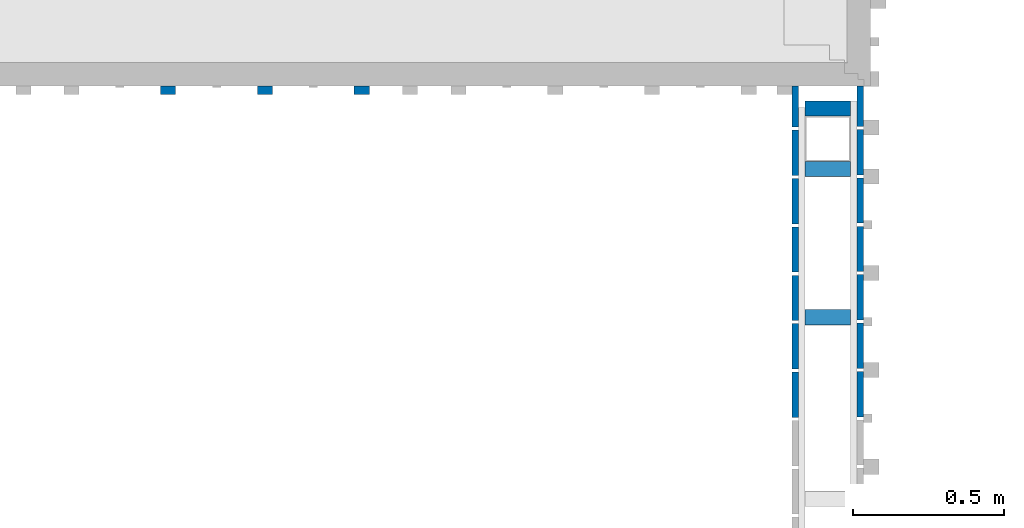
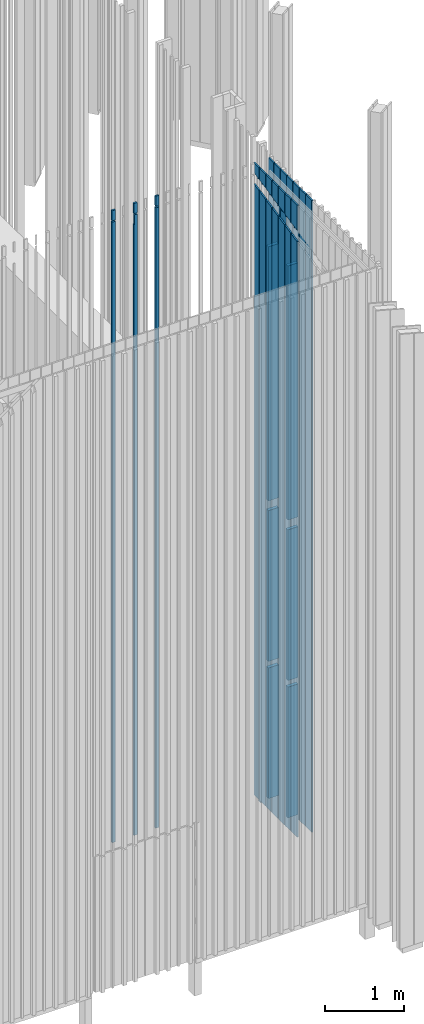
# One storey, part 171 of 390: 24 walls.
"""IFC2X3 building model written with IfcOpenShell, lengths in millimetres."""

from ifc_helpers import new_model, entity, si_unit, converted_unit, derived_unit, money_unit, direction, frame, origin_with_axes, place, context, subcontext, project, spatial, faceted_brep, material, material_list, type_object, element, save


model = new_model("IFC2X3")

# Units and contexts
model_context = context("Model", 3, precision=1e-05, world=origin_with_axes(), true_north=direction((0.0, 1.0)))
body_context = subcontext(model_context, "Body", "Model", "MODEL_VIEW")
ifc_project = project(units=[si_unit("LENGTHUNIT", "METRE", prefix="MILLI"), si_unit("AREAUNIT", "SQUARE_METRE"), si_unit("VOLUMEUNIT", "CUBIC_METRE"), converted_unit("PLANEANGLEUNIT", "DEGREE", entity("IfcPlaneAngleMeasure", 0.0174532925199), si_unit("PLANEANGLEUNIT", "RADIAN"), dimensions=[0, 0, 0, 0, 0, 0, 0]), si_unit("SOLIDANGLEUNIT", "STERADIAN"), money_unit("EUR"), converted_unit("TIMEUNIT", "Year", entity("IfcTimeMeasure", 31556926.0), si_unit("TIMEUNIT", "SECOND"), dimensions=[0, 0, 1, 0, 0, 0, 0]), si_unit("MASSUNIT", "GRAM", prefix="KILO"), si_unit("THERMODYNAMICTEMPERATUREUNIT", "DEGREE_CELSIUS"), si_unit("LUMINOUSINTENSITYUNIT", "LUMEN"), si_unit("ENERGYUNIT", "JOULE", prefix="MEGA"), derived_unit("THERMALCONDUCTANCEUNIT", [(si_unit("POWERUNIT", "WATT"), 1), (si_unit("LENGTHUNIT", "METRE"), -1), (si_unit("THERMODYNAMICTEMPERATUREUNIT", "KELVIN"), -1)]), derived_unit("SPECIFICHEATCAPACITYUNIT", [(si_unit("ENERGYUNIT", "JOULE"), 1), (si_unit("MASSUNIT", "GRAM", prefix="KILO"), -1), (si_unit("THERMODYNAMICTEMPERATUREUNIT", "KELVIN"), -1)]), derived_unit("MASSDENSITYUNIT", [(si_unit("MASSUNIT", "GRAM", prefix="KILO"), 1), (si_unit("VOLUMEUNIT", "CUBIC_METRE"), -1)])], contexts=[model_context])

# Site, building, storey
site_placement = place(None, origin_with_axes())
site = spatial("IfcSite", under=ifc_project, at=site_placement, Name="Site", CompositionType="ELEMENT")
building_placement = place(site_placement, origin_with_axes())
building = spatial("IfcBuilding", under=site, at=building_placement, Name="Building", CompositionType="ELEMENT")
storey_placement = place(building_placement, origin_with_axes())
storey = spatial("IfcBuildingStorey", under=building, at=storey_placement, Name="1 korrus", CompositionType="ELEMENT", Elevation=0.0)

# Walls
ifc_material = material(Name="Site specified")
ifc_material_list = material_list([ifc_material, ifc_material])
wall_type = type_object("IfcWallType", Name="Puitfassaadi ribistik", PredefinedType="NOTDEFINED")
wall_1_placement = place(storey_placement, frame((137784.000037, 45260.9999018, 100.000000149), z_axis=(0.0, 0.0, 1.0), x_axis=(-1.0, 0.0, 0.0)))
element("IfcWall", 1, at=wall_1_placement, inside=storey, type_object=wall_type, material=ifc_material_list, Name="Site specified", context=body_context, shape_type="Brep", body=[
    faceted_brep([(25.0, -2.00001028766, -3.12924797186e-06), (25.0, -2.00010660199, 9438.5673516), (13.9999998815, -2.00010660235, 9438.5673516), (13.9999998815, -1.99986309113, 9591.9184052), (-25.0, -2.00010660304, 9591.91725957), (-25.0, -2.00001028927, -3.12924797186e-06), (25.0, 25.0, 0.0), (25.0, 25.0, 9432.82828782), (13.9999998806, 25.0, 9432.82828782), (13.9999998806, 25.0002406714, 9586.17934202), (-25.0, 25.0, 9586.17820975), (-25.0, 25.0, 0.0)], [[[0, 1, 2, 3, 4, 5]], [[6, 7, 1, 0]], [[8, 2, 1, 7]], [[8, 9, 3, 2]], [[4, 3, 9, 10]], [[11, 5, 4, 10]], [[6, 0, 5, 11]], [[9, 8, 7, 6, 11, 10]]]),
    faceted_brep([(-25.0, 25.0, 9764.99999985), (-25.0, 25.0, 9607.64736224), (-25.0, -2.0001066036, 9613.38641206), (-25.0, -2.0001066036, 9764.99999985), (25.0, 25.0, 9764.99999985), (25.0, 25.0, 9607.64736224), (25.0, -2.00010660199, 9613.38641206), (25.0, -2.00010660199, 9764.99999985)], [[[0, 1, 2, 3]], [[4, 5, 1, 0]], [[5, 6, 2, 1]], [[3, 2, 6, 7]], [[3, 7, 4, 0]], [[7, 6, 5, 4]]]),
])
wall_2_placement = place(storey_placement, frame((137464.000037, 45260.9999517, 100.000000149), z_axis=(0.0, 0.0, 1.0), x_axis=(-1.0, 0.0, 0.0)))
element("IfcWall", 2, at=wall_2_placement, inside=storey, type_object=wall_type, material=ifc_material_list, Name="Site specified", context=body_context, shape_type="Brep", body=[
    faceted_brep([(25.0, -1.99996037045, -3.12924797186e-06), (25.0, -2.00005668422, 9591.91725957), (-25.0, -2.00005668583, 9591.91725957), (-25.0, -1.99996037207, -3.12924797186e-06), (25.0, 25.0, 0.0), (25.0, 25.0, 9586.17822036), (-25.0, 25.0, 9586.17822036), (-25.0, 25.0, 0.0)], [[[0, 1, 2, 3]], [[4, 5, 1, 0]], [[5, 6, 2, 1]], [[3, 2, 6, 7]], [[0, 3, 7, 4]], [[7, 6, 5, 4]]]),
    faceted_brep([(-25.0, 25.0, 9764.99999985), (-25.0, 25.0, 9607.64737285), (-25.0, -2.0000566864, 9613.38641206), (-25.0, -2.0000566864, 9764.99999985), (25.0, 25.0, 9764.99999985), (25.0, 25.0, 9607.64737285), (25.0, -2.00005668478, 9613.38641206), (25.0, -2.00005668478, 9764.99999985)], [[[0, 1, 2, 3]], [[4, 5, 1, 0]], [[5, 6, 2, 1]], [[3, 2, 6, 7]], [[3, 7, 4, 0]], [[7, 6, 5, 4]]]),
])
wall_3_placement = place(storey_placement, frame((138104.000037, 45260.9999093, 100.000000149), z_axis=(0.0, 0.0, 1.0), x_axis=(-1.0, 0.0, 0.0)))
element("IfcWall", 3, at=wall_3_placement, inside=storey, type_object=wall_type, material=ifc_material_list, Name="Site specified", context=body_context, shape_type="Brep", body=[
    faceted_brep([(25.0, -2.00000278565, -3.12924797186e-06), (25.0, -2.00009909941, 9591.91725957), (-25.0, -2.00009910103, 9591.91725957), (-25.0, -2.00000278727, -3.12924797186e-06), (25.0, 25.0, 0.0), (25.0, 25.0, 9586.17821134), (-25.0, 25.0, 9586.17821134), (-25.0, 25.0, 0.0)], [[[0, 1, 2, 3]], [[4, 5, 1, 0]], [[5, 6, 2, 1]], [[3, 2, 6, 7]], [[0, 3, 7, 4]], [[7, 6, 5, 4]]]),
    faceted_brep([(-25.0, 25.0, 9764.99999985), (-25.0, 25.0, 9607.64736383), (-25.0, -2.0000991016, 9613.38641206), (-25.0, -2.0000991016, 9764.99999985), (25.0, 25.0, 9764.99999985), (25.0, 25.0, 9607.64736383), (25.0, -2.00009909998, 9613.38641206), (25.0, -2.00009909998, 9764.99999985)], [[[0, 1, 2, 3]], [[4, 5, 1, 0]], [[5, 6, 2, 1]], [[3, 2, 6, 7]], [[3, 7, 4, 0]], [[7, 6, 5, 4]]]),
])
wall_4_placement = place(storey_placement, frame((139752.000037, 44725.0000099, 100.000000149), z_axis=(0.0, 0.0, 1.0), x_axis=(0.0, 1.0, 0.0)))
element("IfcWall", 4, at=wall_4_placement, inside=storey, type_object=wall_type, material=ifc_material, Name="Site specified", context=body_context, shape_type="Brep", body=[
    faceted_brep([(75.0, -11.0000000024, 9764.99999985), (-75.0, -11.0000000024, 9764.99999985), (-75.0, -11.0000000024, 0.0), (75.0, -11.0000000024, 0.0), (75.0, 11.0000000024, 9764.99999985), (-75.0, 11.0000000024, 9764.99999985), (-75.0, 11.0000000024, 0.0), (75.0, 11.0000000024, 0.0)], [[[0, 1, 2, 3]], [[4, 5, 1, 0]], [[1, 5, 6, 2]], [[7, 3, 2, 6]], [[4, 0, 3, 7]], [[5, 4, 7, 6]]]),
])
wall_5_placement = place(storey_placement, frame((139752.000037, 45205.0000099, 100.000000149), z_axis=(0.0, 0.0, 1.0), x_axis=(0.0, 1.0, 0.0)))
element("IfcWall", 5, at=wall_5_placement, inside=storey, type_object=wall_type, material=ifc_material, Name="Site specified", context=body_context, shape_type="Brep", body=[
    faceted_brep([(-75.0, -11.0000000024, 9764.99999985), (-75.0, -11.0000000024, 0.0), (57.9999022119, -11.0000000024, -3.12924797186e-06), (57.9999985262, -11.0000000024, 9764.99999985), (-75.0, 11.0000000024, 9764.99999985), (-75.0, 11.0000000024, 0.0), (57.9999022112, 11.0000000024, -3.12924797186e-06), (57.9999985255, 11.0000000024, 9764.99999985)], [[[0, 1, 2, 3]], [[1, 0, 4, 5]], [[1, 5, 6, 2]], [[6, 7, 3, 2]], [[4, 0, 3, 7]], [[4, 7, 6, 5]]]),
])
for number, where, z_axis, x_axis, name in (
    (6, (139752.000037, 45045.0000099, 100.000000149), (0.0, 0.0, 1.0), (0.0, 1.0, 0.0), "Site specified"),
    (7, (139752.000037, 44405.0000099, 100.000000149), (0.0, 0.0, 1.0), (0.0, 1.0, 0.0), "Site specified"),
    (8, (139752.000037, 44885.0000099, 100.000000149), (0.0, 0.0, 1.0), (0.0, 1.0, 0.0), "Site specified"),
    (9, (139752.000037, 44565.0000099, 100.000000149), (0.0, 0.0, 1.0), (0.0, 1.0, 0.0), "Site specified"),
    (10, (139752.000037, 44245.0000099, 100.000000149), (0.0, 0.0, 1.0), (0.0, 1.0, 0.0), "Site specified"),
):
    element("IfcWall", number, at=place(storey_placement, frame(where, z_axis=z_axis, x_axis=x_axis)), inside=storey, type_object=wall_type, material=ifc_material, Name=name, context=body_context, shape_type="Brep", body=[
        faceted_brep([(75.0, -11.0000000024, 9764.99999985), (-75.0, -11.0000000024, 9764.99999985), (-75.0, -11.0000000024, 0.0), (75.0, -11.0000000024, 0.0), (75.0, 11.0000000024, 9764.99999985), (-75.0, 11.0000000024, 9764.99999985), (-75.0, 11.0000000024, 0.0), (75.0, 11.0000000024, 0.0)], [[[0, 1, 2, 3]], [[4, 5, 1, 0]], [[1, 5, 6, 2]], [[7, 3, 2, 6]], [[4, 0, 3, 7]], [[5, 4, 7, 6]]]),
    ])
wall_6_placement = place(storey_placement, frame((139538.000037, 45203.0000099, 100.000000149), z_axis=(0.0, 0.0, 1.0), x_axis=(0.0, 1.0, 0.0)))
element("IfcWall", 11, at=wall_6_placement, inside=storey, type_object=wall_type, material=ifc_material_list, Name="Site specified", context=body_context, shape_type="Brep", body=[
    faceted_brep([(-39.7053524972, -11.0000000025, 9592.19338547), (-39.7055855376, -11.0000000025, 9570.72532934), (-29.9241105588, -11.0000000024, 9572.80445109), (-29.9238764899, -11.0000000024, 9594.27250238), (59.9999985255, -11.0000000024, 9613.38641206), (59.9999985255, -11.0000000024, 9764.99999985), (-75.0, -11.0000000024, 9764.99999985), (-75.0, -11.0000000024, 9584.69127655), (-39.7053524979, 11.0000000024, 9592.19338547), (-39.7055855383, 11.0000000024, 9570.72532934), (-29.9241105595, 11.0000000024, 9572.80445109), (-29.9238764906, 11.0000000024, 9594.27250238), (59.9999985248, 11.0000000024, 9613.38641206), (59.9999985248, 11.0000000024, 9764.99999985), (-75.0, 11.0000000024, 9764.99999985), (-75.0, 11.0000000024, 9584.69127655)], [[[0, 1, 2, 3, 4, 5, 6, 7]], [[8, 9, 1, 0]], [[9, 10, 2, 1]], [[3, 2, 10, 11]], [[4, 3, 11, 12]], [[12, 13, 5, 4]], [[14, 6, 5, 13]], [[6, 14, 15, 7]], [[15, 8, 0, 7]], [[11, 10, 9, 8, 15, 14, 13, 12]]]),
    faceted_brep([(59.9999022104, 11.0000000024, -3.12924797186e-06), (59.9999985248, 11.0000000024, 9438.56735167), (59.9999985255, -11.0000000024, 9438.56735167), (59.9999022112, -11.0000000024, -3.12924797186e-06), (-75.0, 11.0000000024, 0.0), (-75.0, 11.0000000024, 9409.87214635), (-75.0, -11.0000000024, 9409.87214635), (-75.0, -11.0000000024, 0.0)], [[[0, 1, 2, 3]], [[4, 5, 1, 0]], [[5, 6, 2, 1]], [[3, 2, 6, 7]], [[7, 4, 0, 3]], [[7, 6, 5, 4]]]),
])
wall_7_placement = place(storey_placement, frame((139538.000037, 45043.0000099, 100.000000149), z_axis=(0.0, 0.0, 1.0), x_axis=(0.0, 1.0, 0.0)))
element("IfcWall", 12, at=wall_7_placement, inside=storey, type_object=wall_type, material=ifc_material_list, Name="Site specified", context=body_context, shape_type="Brep", body=[
    faceted_brep([(17.5891494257, -11.0000000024, 9570.36265793), (17.5889271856, -11.0000000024, 9548.894551), (27.3704021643, -11.0000000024, 9550.97367275), (27.3706254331, -11.0000000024, 9572.44177484), (75.0, -11.0000000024, 9582.56571094), (75.0, -11.0000000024, 9764.99999985), (-75.0, -11.0000000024, 9764.99999985), (-75.0, -11.0000000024, 9550.68222669), (17.589149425, 11.0000000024, 9570.36265793), (17.5889271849, 11.0000000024, 9548.894551), (27.3704021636, 11.0000000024, 9550.97367275), (27.3706254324, 11.0000000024, 9572.44177484), (75.0, 11.0000000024, 9582.56571094), (75.0, 11.0000000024, 9764.99999985), (-75.0, 11.0000000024, 9764.99999985), (-75.0, 11.0000000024, 9550.68222669)], [[[0, 1, 2, 3, 4, 5, 6, 7]], [[8, 9, 1, 0]], [[9, 10, 2, 1]], [[3, 2, 10, 11]], [[11, 12, 4, 3]], [[5, 4, 12, 13]], [[13, 14, 6, 5]], [[14, 15, 7, 6]], [[8, 0, 7, 15]], [[11, 10, 9, 8, 15, 14, 13, 12]]]),
    faceted_brep([(75.0, 11.0000000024, 0.0), (75.0, 11.0000000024, 9407.74657557), (75.0, -11.0000000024, 9407.74657557), (75.0, -11.0000000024, 0.0), (-75.0, 11.0000000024, 0.0), (-75.0, 11.0000000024, 9375.86301376), (-75.0, -11.0000000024, 9375.86301376), (-75.0, -11.0000000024, 0.0)], [[[0, 1, 2, 3]], [[4, 5, 1, 0]], [[5, 6, 2, 1]], [[3, 2, 6, 7]], [[0, 3, 7, 4]], [[7, 6, 5, 4]]]),
])
wall_8_placement = place(storey_placement, frame((139538.000037, 44883.0000099, 100.000000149), z_axis=(0.0, 0.0, 1.0), x_axis=(0.0, 1.0, 0.0)))
element("IfcWall", 13, at=wall_8_placement, inside=storey, type_object=wall_type, material=ifc_material_list, Name="Site specified", context=body_context, shape_type="Brep", body=[
    faceted_brep([(74.8836513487, -11.0000000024, 9548.5319304), (74.8834399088, -11.0000000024, 9527.06377265), (75.0, -11.0000000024, 9527.08854832), (75.0, -11.0000000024, 9764.99999985), (-75.0, -11.0000000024, 9764.99999985), (-75.0, -11.0000000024, 9516.67317682), (-27.8218467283, -11.0000000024, 9526.70120286), (-27.8220473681, -11.0000000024, 9505.2329943), (-18.0405723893, -11.0000000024, 9507.31211605), (-18.040370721, -11.0000000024, 9528.78031977), (74.883651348, 11.0000000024, 9548.5319304), (74.883439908, 11.0000000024, 9527.06377265), (75.0, 11.0000000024, 9527.08854832), (75.0, 11.0000000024, 9764.99999985), (-75.0, 11.0000000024, 9764.99999985), (-75.0, 11.0000000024, 9516.67317682), (-27.821846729, 11.0000000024, 9526.70120286), (-27.8220473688, 11.0000000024, 9505.2329943), (-18.0405723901, 11.0000000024, 9507.31211605), (-18.0403707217, 11.0000000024, 9528.78031977)], [[[0, 1, 2, 3, 4, 5, 6, 7, 8, 9]], [[10, 11, 1, 0]], [[11, 12, 2, 1]], [[3, 2, 12, 13]], [[13, 14, 4, 3]], [[14, 15, 5, 4]], [[16, 6, 5, 15]], [[16, 17, 7, 6]], [[17, 18, 8, 7]], [[9, 8, 18, 19]], [[10, 0, 9, 19]], [[13, 12, 11, 10, 19, 18, 17, 16, 15, 14]]]),
    faceted_brep([(75.0, 11.0000000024, 0.0), (75.0, 11.0000000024, 9373.73744297), (75.0, -11.0000000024, 9373.73744297), (75.0, -11.0000000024, 0.0), (-75.0, 11.0000000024, 0.0), (-75.0, 11.0000000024, 9341.85388116), (-75.0, -11.0000000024, 9341.85388116), (-75.0, -11.0000000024, 0.0)], [[[0, 1, 2, 3]], [[4, 5, 1, 0]], [[5, 6, 2, 1]], [[3, 2, 6, 7]], [[0, 3, 7, 4]], [[7, 6, 5, 4]]]),
])
wall_9_placement = place(storey_placement, frame((139538.000037, 44723.0000099, 100.000000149), z_axis=(0.0, 0.0, 1.0), x_axis=(0.0, 1.0, 0.0)))
element("IfcWall", 14, at=wall_9_placement, inside=storey, type_object=wall_type, material=ifc_material_list, Name="Site specified", context=body_context, shape_type="Brep", body=[
    faceted_brep([(29.4726551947, -11.0000000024, 9504.87047533), (29.472465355, -11.0000000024, 9483.40221596), (39.2539403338, -11.0000000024, 9485.48133771), (39.254131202, -11.0000000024, 9506.94959224), (75.0, -11.0000000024, 9514.5476112), (75.0, -11.0000000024, 9764.99999985), (-75.0, -11.0000000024, 9764.99999985), (-75.0, -11.0000000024, 9482.66412695), (-73.2328428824, -11.0000000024, 9483.03974779), (-73.2330219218, -11.0000000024, 9461.57143761), (-63.4515469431, -11.0000000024, 9463.65055936), (-63.451366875, -11.0000000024, 9485.1188647), (29.4726551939, 11.0000000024, 9504.87047533), (29.4724653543, 11.0000000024, 9483.40221596), (39.2539403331, 11.0000000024, 9485.48133771), (39.2541312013, 11.0000000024, 9506.94959224), (75.0, 11.0000000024, 9514.5476112), (75.0, 11.0000000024, 9764.99999985), (-75.0, 11.0000000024, 9764.99999985), (-75.0, 11.0000000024, 9482.66412695), (-73.2328428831, 11.0000000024, 9483.03974779), (-73.2330219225, 11.0000000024, 9461.57143761), (-63.4515469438, 11.0000000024, 9463.65055936), (-63.4513668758, 11.0000000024, 9485.1188647)], [[[0, 1, 2, 3, 4, 5, 6, 7, 8, 9, 10, 11]], [[12, 13, 1, 0]], [[13, 14, 2, 1]], [[3, 2, 14, 15]], [[15, 16, 4, 3]], [[5, 4, 16, 17]], [[17, 18, 6, 5]], [[18, 19, 7, 6]], [[20, 8, 7, 19]], [[20, 21, 9, 8]], [[21, 22, 10, 9]], [[11, 10, 22, 23]], [[12, 0, 11, 23]], [[15, 14, 13, 12, 23, 22, 21, 20, 19, 18, 17, 16]]]),
    faceted_brep([(75.0, 11.0000000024, 0.0), (75.0, 11.0000000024, 9339.72831037), (75.0, -11.0000000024, 9339.72831037), (75.0, -11.0000000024, 0.0), (-75.0, 11.0000000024, 0.0), (-75.0, 11.0000000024, 9307.84474856), (-75.0, -11.0000000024, 9307.84474856), (-75.0, -11.0000000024, 0.0)], [[[0, 1, 2, 3]], [[4, 5, 1, 0]], [[5, 6, 2, 1]], [[3, 2, 6, 7]], [[0, 3, 7, 4]], [[7, 6, 5, 4]]]),
])
wall_10_placement = place(storey_placement, frame((139538.000037, 44563.0000099, 100.000000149), z_axis=(0.0, 0.0, 1.0), x_axis=(0.0, 1.0, 0.0)))
element("IfcWall", 15, at=wall_10_placement, inside=storey, type_object=wall_type, material=ifc_material_list, Name="Site specified", context=body_context, shape_type="Brep", body=[
    faceted_brep([(-15.9383409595, -11.0000000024, 9461.20902026), (-15.9385091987, -11.0000000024, 9439.74065926), (-6.15703421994, -11.0000000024, 9441.81978101), (-6.1568649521, -11.0000000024, 9463.28813716), (75.0, -11.0000000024, 9480.53856133), (75.0, -11.0000000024, 9764.99999985), (-75.0, -11.0000000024, 9764.99999985), (-75.0, -11.0000000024, 9448.65507708), (-15.9383409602, 11.0000000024, 9461.20902026), (-15.9385091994, 11.0000000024, 9439.74065926), (-6.15703422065, 11.0000000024, 9441.81978101), (-6.15686495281, 11.0000000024, 9463.28813716), (75.0, 11.0000000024, 9480.53856133), (75.0, 11.0000000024, 9764.99999985), (-75.0, 11.0000000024, 9764.99999985), (-75.0, 11.0000000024, 9448.65507708)], [[[0, 1, 2, 3, 4, 5, 6, 7]], [[8, 9, 1, 0]], [[9, 10, 2, 1]], [[3, 2, 10, 11]], [[11, 12, 4, 3]], [[5, 4, 12, 13]], [[13, 14, 6, 5]], [[14, 15, 7, 6]], [[8, 0, 7, 15]], [[11, 10, 9, 8, 15, 14, 13, 12]]]),
    faceted_brep([(75.0, 11.0000000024, 0.0), (75.0, 11.0000000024, 9305.71917777), (75.0, -11.0000000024, 9305.71917777), (75.0, -11.0000000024, 0.0), (-75.0, 11.0000000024, 0.0), (-75.0, 11.0000000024, 9273.83561596), (-75.0, -11.0000000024, 9273.83561596), (-75.0, -11.0000000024, 0.0)], [[[0, 1, 2, 3]], [[4, 5, 1, 0]], [[5, 6, 2, 1]], [[3, 2, 6, 7]], [[0, 3, 7, 4]], [[7, 6, 5, 4]]]),
])
wall_11_placement = place(storey_placement, frame((139538.000037, 44403.0000099, 100.000000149), z_axis=(0.0, 0.0, 1.0), x_axis=(0.0, 1.0, 0.0)))
element("IfcWall", 16, at=wall_11_placement, inside=storey, type_object=wall_type, material=ifc_material_list, Name="Site specified", context=body_context, shape_type="Brep", body=[
    faceted_brep([(41.3561609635, -11.0000000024, 9439.37829272), (41.3560035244, -11.0000000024, 9417.90988092), (51.1374785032, -11.0000000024, 9419.98900267), (51.1376369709, -11.0000000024, 9441.45740963), (75.0, -11.0000000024, 9446.52951147), (75.0, -11.0000000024, 9764.99999985), (-75.0, -11.0000000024, 9764.99999985), (-75.0, -11.0000000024, 9414.64602722), (-61.3493371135, -11.0000000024, 9417.54756518), (-61.3494837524, -11.0000000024, 9396.07910257), (-51.5680087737, -11.0000000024, 9398.15822432), (-51.5678611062, -11.0000000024, 9419.62668209), (41.3561609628, 11.0000000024, 9439.37829272), (41.3560035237, 11.0000000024, 9417.90988092), (51.1374785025, 11.0000000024, 9419.98900267), (51.1376369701, 11.0000000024, 9441.45740963), (75.0, 11.0000000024, 9446.52951147), (75.0, 11.0000000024, 9764.99999985), (-75.0, 11.0000000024, 9764.99999985), (-75.0, 11.0000000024, 9414.64602722), (-61.3493371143, 11.0000000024, 9417.54756518), (-61.3494837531, 11.0000000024, 9396.07910257), (-51.5680087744, 11.0000000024, 9398.15822432), (-51.5678611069, 11.0000000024, 9419.62668209)], [[[0, 1, 2, 3, 4, 5, 6, 7, 8, 9, 10, 11]], [[12, 13, 1, 0]], [[13, 14, 2, 1]], [[3, 2, 14, 15]], [[15, 16, 4, 3]], [[5, 4, 16, 17]], [[17, 18, 6, 5]], [[18, 19, 7, 6]], [[20, 8, 7, 19]], [[20, 21, 9, 8]], [[21, 22, 10, 9]], [[11, 10, 22, 23]], [[12, 0, 11, 23]], [[15, 14, 13, 12, 23, 22, 21, 20, 19, 18, 17, 16]]]),
    faceted_brep([(75.0, 11.0000000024, 0.0), (75.0, 11.0000000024, 9271.71004517), (75.0, -11.0000000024, 9271.71004517), (75.0, -11.0000000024, 0.0), (-75.0, 11.0000000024, 0.0), (-75.0, 11.0000000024, 9239.82648336), (-75.0, -11.0000000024, 9239.82648336), (-75.0, -11.0000000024, 0.0)], [[[0, 1, 2, 3]], [[4, 5, 1, 0]], [[5, 6, 2, 1]], [[3, 2, 6, 7]], [[0, 3, 7, 4]], [[7, 6, 5, 4]]]),
])
wall_12_placement = place(storey_placement, frame((139538.000037, 44243.0000099, 100.000000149), z_axis=(0.0, 0.0, 1.0), x_axis=(0.0, 1.0, 0.0)))
element("IfcWall", 17, at=wall_12_placement, inside=storey, type_object=wall_type, material=ifc_material_list, Name="Site specified", context=body_context, shape_type="Brep", body=[
    faceted_brep([(-4.05483519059, -11.0000000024, 9395.71683765), (-4.0549710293, -11.0000000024, 9374.24832423), (5.72650394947, -11.0000000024, 9376.32744597), (5.72664081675, -11.0000000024, 9397.79595456), (75.0, -11.0000000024, 9412.5204616), (75.0, -11.0000000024, 9764.99999985), (-75.0, -11.0000000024, 9764.99999985), (-75.0, -11.0000000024, 9380.63697735), (-4.0548351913, 11.0000000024, 9395.71683765), (-4.05497103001, 11.0000000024, 9374.24832423), (5.72650394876, 11.0000000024, 9376.32744597), (5.72664081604, 11.0000000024, 9397.79595456), (75.0, 11.0000000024, 9412.5204616), (75.0, 11.0000000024, 9764.99999985), (-75.0, 11.0000000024, 9764.99999985), (-75.0, 11.0000000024, 9380.63697735)], [[[0, 1, 2, 3, 4, 5, 6, 7]], [[8, 9, 1, 0]], [[9, 10, 2, 1]], [[3, 2, 10, 11]], [[11, 12, 4, 3]], [[5, 4, 12, 13]], [[13, 14, 6, 5]], [[14, 15, 7, 6]], [[8, 0, 7, 15]], [[11, 10, 9, 8, 15, 14, 13, 12]]]),
    faceted_brep([(75.0, 11.0000000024, 0.0), (75.0, 11.0000000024, 9237.70091257), (75.0, -11.0000000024, 9237.70091257), (75.0, -11.0000000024, 0.0), (-75.0, 11.0000000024, 0.0), (-75.0, 11.0000000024, 9205.81735076), (-75.0, -11.0000000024, 9205.81735076), (-75.0, -11.0000000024, 0.0)], [[[0, 1, 2, 3]], [[4, 5, 1, 0]], [[5, 6, 2, 1]], [[3, 2, 6, 7]], [[0, 3, 7, 4]], [[7, 6, 5, 4]]]),
])
wall_13_placement = place(storey_placement, frame((139645.000037, 44499.0000099, 200.000000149), z_axis=(0.0, 0.0, 1.0), x_axis=(0.0, 1.0, 0.0)))
element("IfcWall", 18, at=wall_13_placement, inside=storey, type_object=wall_type, material=ifc_material, Name="Site specified", context=body_context, shape_type="Brep", body=[
    faceted_brep([(25.0, -74.9999999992, 2019.99999987), (-25.0, -74.9999999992, 2019.99999987), (-25.0, -74.9999999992, 0.0), (25.0, -74.9999999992, 0.0), (25.0, 74.9999999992, 2019.99999987), (-25.0, 74.9999999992, 2019.99999987), (-25.0, 74.9999999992, 0.0), (25.0, 74.9999999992, 0.0)], [[[0, 1, 2, 3]], [[4, 5, 1, 0]], [[1, 5, 6, 2]], [[7, 3, 2, 6]], [[4, 0, 3, 7]], [[5, 4, 7, 6]]]),
])
wall_14_placement = place(storey_placement, frame((139645.000037, 44499.0000099, 2320.00000001), z_axis=(0.0, 0.0, 1.0), x_axis=(0.0, 1.0, 0.0)))
element("IfcWall", 19, at=wall_14_placement, inside=storey, type_object=wall_type, material=ifc_material, Name="Site specified", context=body_context, shape_type="Brep", body=[
    faceted_brep([(25.0, -74.9999999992, 2330.0), (-25.0, -74.9999999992, 2330.0), (-25.0, -74.9999999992, 0.0), (25.0, -74.9999999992, 0.0), (25.0, 74.9999999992, 2330.0), (-25.0, 74.9999999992, 2330.0), (-25.0, 74.9999999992, 0.0), (25.0, 74.9999999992, 0.0)], [[[0, 1, 2, 3]], [[4, 5, 1, 0]], [[1, 5, 6, 2]], [[7, 3, 2, 6]], [[4, 0, 3, 7]], [[5, 4, 7, 6]]]),
])
wall_15_placement = place(storey_placement, frame((139645.000037, 44499.0000099, 4800.00000001), z_axis=(0.0, 0.0, 1.0), x_axis=(0.0, 1.0, 0.0)))
element("IfcWall", 20, at=wall_15_placement, inside=storey, type_object=wall_type, material=ifc_material, Name="Site specified", context=body_context, shape_type="Brep", body=[
    faceted_brep([(25.0, -74.9999999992, 3927.99999761), (-25.0, -74.9999999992, 3927.99999761), (-25.0, -74.9999999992, 0.0), (25.0, -74.9999999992, 0.0), (25.0, 74.9999999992, 3927.99999761), (-25.0, 74.9999999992, 3927.99999761), (-25.0, 74.9999999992, 0.0), (25.0, 74.9999999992, 0.0)], [[[0, 1, 2, 3]], [[4, 5, 1, 0]], [[1, 5, 6, 2]], [[7, 3, 2, 6]], [[4, 0, 3, 7]], [[5, 4, 7, 6]]]),
])
wall_16_placement = place(storey_placement, frame((139645.000037, 44989.0000099, 200.000000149), z_axis=(0.0, 0.0, 1.0), x_axis=(0.0, 1.0, 0.0)))
element("IfcWall", 21, at=wall_16_placement, inside=storey, type_object=wall_type, material=ifc_material, Name="Site specified", context=body_context, shape_type="Brep", body=[
    faceted_brep([(25.0, -74.9999999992, 2019.99999987), (-25.0, -74.9999999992, 2019.99999987), (-25.0, -74.9999999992, 0.0), (25.0, -74.9999999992, 0.0), (25.0, 74.9999999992, 2019.99999987), (-25.0, 74.9999999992, 2019.99999987), (-25.0, 74.9999999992, 0.0), (25.0, 74.9999999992, 0.0)], [[[0, 1, 2, 3]], [[4, 5, 1, 0]], [[1, 5, 6, 2]], [[7, 3, 2, 6]], [[4, 0, 3, 7]], [[5, 4, 7, 6]]]),
])
wall_17_placement = place(storey_placement, frame((139645.000037, 44989.0000099, 2320.00000001), z_axis=(0.0, 0.0, 1.0), x_axis=(0.0, 1.0, 0.0)))
element("IfcWall", 22, at=wall_17_placement, inside=storey, type_object=wall_type, material=ifc_material, Name="Site specified", context=body_context, shape_type="Brep", body=[
    faceted_brep([(25.0, -74.9999999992, 2330.0), (-25.0, -74.9999999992, 2330.0), (-25.0, -74.9999999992, 0.0), (25.0, -74.9999999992, 0.0), (25.0, 74.9999999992, 2330.0), (-25.0, 74.9999999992, 2330.0), (-25.0, 74.9999999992, 0.0), (25.0, 74.9999999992, 0.0)], [[[0, 1, 2, 3]], [[4, 5, 1, 0]], [[1, 5, 6, 2]], [[7, 3, 2, 6]], [[4, 0, 3, 7]], [[5, 4, 7, 6]]]),
])
wall_18_placement = place(storey_placement, frame((139645.000037, 44989.0000099, 4800.00000001), z_axis=(0.0, 0.0, 1.0), x_axis=(0.0, 1.0, 0.0)))
element("IfcWall", 23, at=wall_18_placement, inside=storey, type_object=wall_type, material=ifc_material, Name="Site specified", context=body_context, shape_type="Brep", body=[
    faceted_brep([(25.0, -74.9999999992, 3927.99999761), (-25.0, -74.9999999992, 3927.99999761), (-25.0, -74.9999999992, 0.0), (25.0, -74.9999999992, 0.0), (25.0, 74.9999999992, 3927.99999761), (-25.0, 74.9999999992, 3927.99999761), (-25.0, 74.9999999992, 0.0), (25.0, 74.9999999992, 0.0)], [[[0, 1, 2, 3]], [[4, 5, 1, 0]], [[1, 5, 6, 2]], [[7, 3, 2, 6]], [[4, 0, 3, 7]], [[5, 4, 7, 6]]]),
])
wall_19_placement = place(storey_placement, frame((139645.000037, 45189.0000099, 15.0000000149), z_axis=(0.0, 0.0, 1.0), x_axis=(0.0, 1.0, 0.0)))
element("IfcWall", 24, at=wall_19_placement, inside=storey, type_object=wall_type, material=ifc_material, Name="Site specified", context=body_context, shape_type="Brep", body=[
    faceted_brep([(25.0, -74.9999999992, 8712.99999761), (-25.0, -74.9999999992, 8712.99999761), (-25.0, -74.9999999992, 0.0), (25.0, -74.9999999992, 0.0), (25.0, 74.9999999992, 8712.99999761), (-25.0, 74.9999999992, 8712.99999761), (-25.0, 74.9999999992, 0.0), (25.0, 74.9999999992, 0.0)], [[[0, 1, 2, 3]], [[4, 5, 1, 0]], [[1, 5, 6, 2]], [[7, 3, 2, 6]], [[4, 0, 3, 7]], [[5, 4, 7, 6]]]),
])

save(model, "model.ifc")
